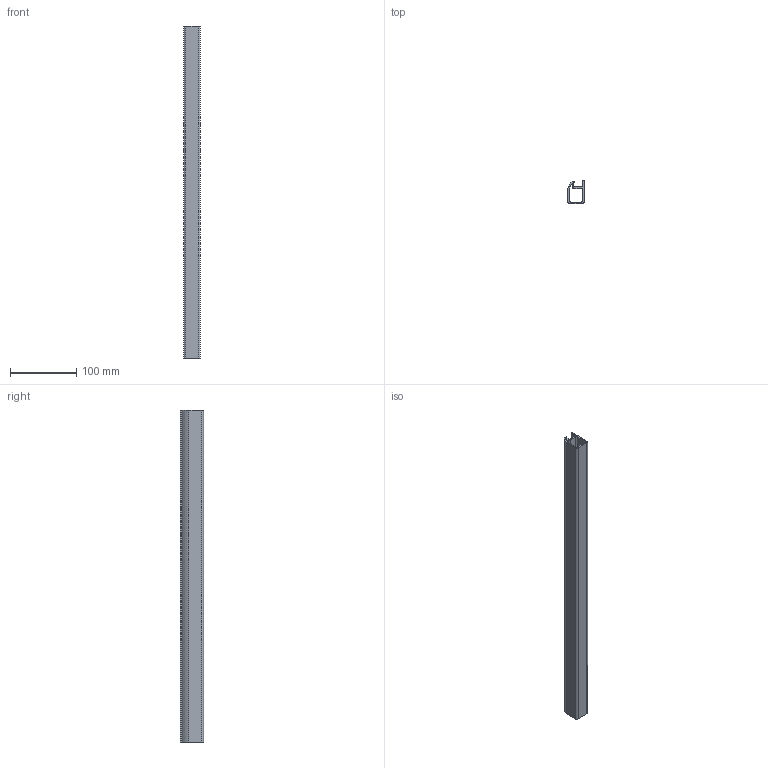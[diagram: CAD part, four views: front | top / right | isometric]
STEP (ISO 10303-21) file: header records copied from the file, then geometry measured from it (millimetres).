
FILE_DESCRIPTION (( 'STEP AP214' ), '1' );
FILE_NAME ('A40701.step', '2024-12-03T16:11:18', ( '' ), ( '' ), 'SwSTEP 2.0', 'SolidWorks 2023', '' );
FILE_SCHEMA (( 'AUTOMOTIVE_DESIGN' ));
Length unit declared in the file: millimetre
Products named in the file (1): A40701
Bounding box: 25 x 35 x 500 mm (x, y, z)
Volume: 113175 mm3; surface area: 111732 mm2
Topology: 1 solids, 1 shells, 31 faces, 87 edges, 58 vertices
Faces by surface type: plane 19, cylinder 12
Entity records: 1032 total; most frequent: CARTESIAN_POINT 177, DIRECTION 175, ORIENTED_EDGE 174, EDGE_CURVE 87, VECTOR 63, LINE 63, VERTEX_POINT 58, AXIS2_PLACEMENT_3D 56
